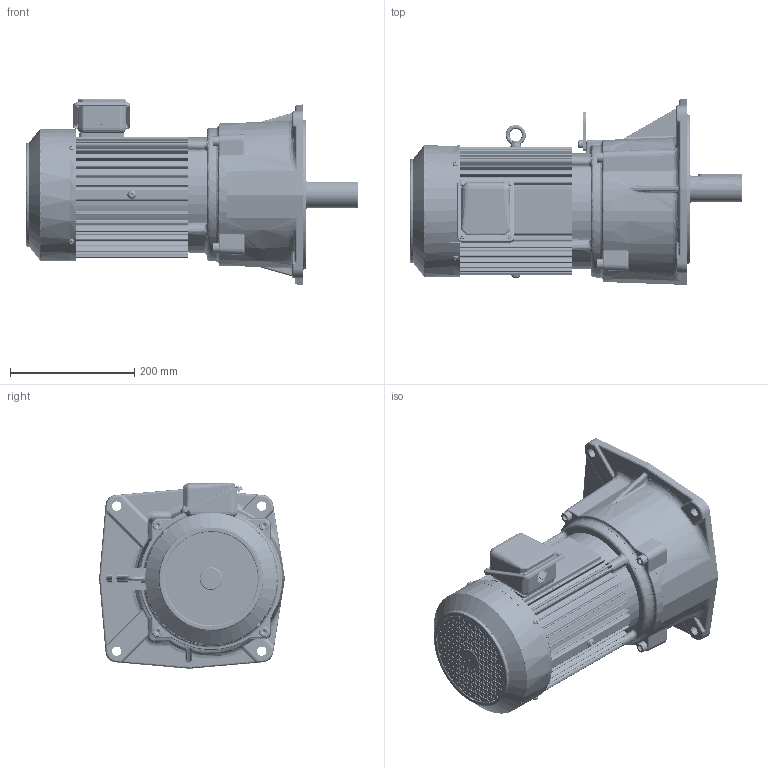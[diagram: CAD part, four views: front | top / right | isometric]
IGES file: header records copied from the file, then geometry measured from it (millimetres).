
Start section: SolidWorks IGES file using analytic representation for surfaces
Global section: file name: \\100.100.100.8\1_共有作業フォルダ\1-5_３Ｄデータ\solidworks\personal-folder\H.Nagayama\SGP1外形075~370\P1(3D)_075~370\igs\TMF2-22-(5~20).IGS; native system: SolidWorks 2018; preprocessor: SolidWorks 2018; author: sigma-giken; date: 200806.155013; units: millimetre
Bounding box: 534 x 299 x 298.5 mm (x, y, z)
Surface area: 945620.1 mm2 (no closed solid volume)
Topology: 0 solids, 0 shells, 3384 faces, 36658 edges, 36578 vertices
Faces by surface type: bspline 1801, revolution 1583
